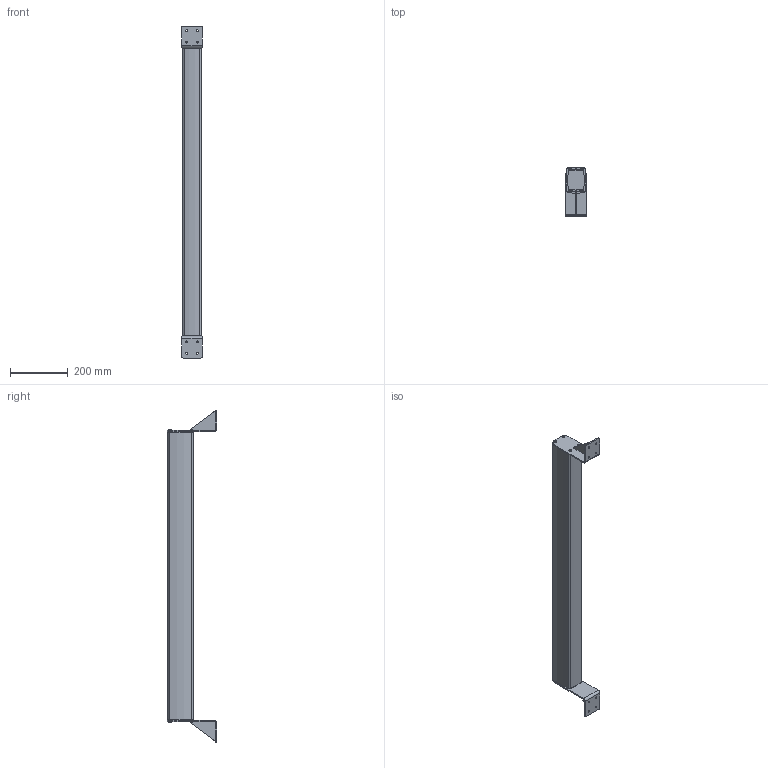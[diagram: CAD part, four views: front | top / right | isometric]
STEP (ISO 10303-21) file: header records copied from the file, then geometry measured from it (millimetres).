
FILE_DESCRIPTION((''),'2;1');
FILE_NAME('9806000218_ASM','2023-03-27T14:28:11',('Stephanie.Hoppe'),(''),'CREO PARAMETRIC BY PTC INC, 2022124','CREO PARAMETRIC BY PTC INC, 2022124','');
FILE_SCHEMA(('AUTOMOTIVE_DESIGN { 1 0 10303 214 1 1 1 1 }'));
Length unit declared in the file: millimetre
Products named in the file (10): 9206070000_AF0; 9524502105_ASM; 9514199000_1; 9514199000_2; 9514199000_ASM; 9231828000; 9261637000; 9231832000; 9806000150_ET_EINBAU_ASM; 9806000218_ASM
Assembly tree (16 placements, depth 4):
  9806000218_ASM
    9524502105_ASM
      9206070000_AF0
    9806000150_ET_EINBAU_ASM  x2
      9514199000_ASM
        9514199000_1
        9514199000_2
      9231828000
      9261637000
      9231832000
Bounding box: 72 x 170.71 x 1150 mm (x, y, z)
Volume: 2022217.4 mm3; surface area: 653843.9 mm2
Topology: 23 solids, 39 shells, 766 faces, 1825 edges, 1152 vertices
Faces by surface type: cylinder 356, cone 144, torus 128, plane 122, sphere 16
Entity records: 17980 total; most frequent: DIRECTION 2009, CARTESIAN_POINT 1968, ORIENTED_EDGE 1278, PRESENTATION_STYLE_ASSIGNMENT 857, STYLED_ITEM 857, AXIS2_PLACEMENT_3D 816, PROPERTY_DEFINITION 778, REPRESENTATION 771
